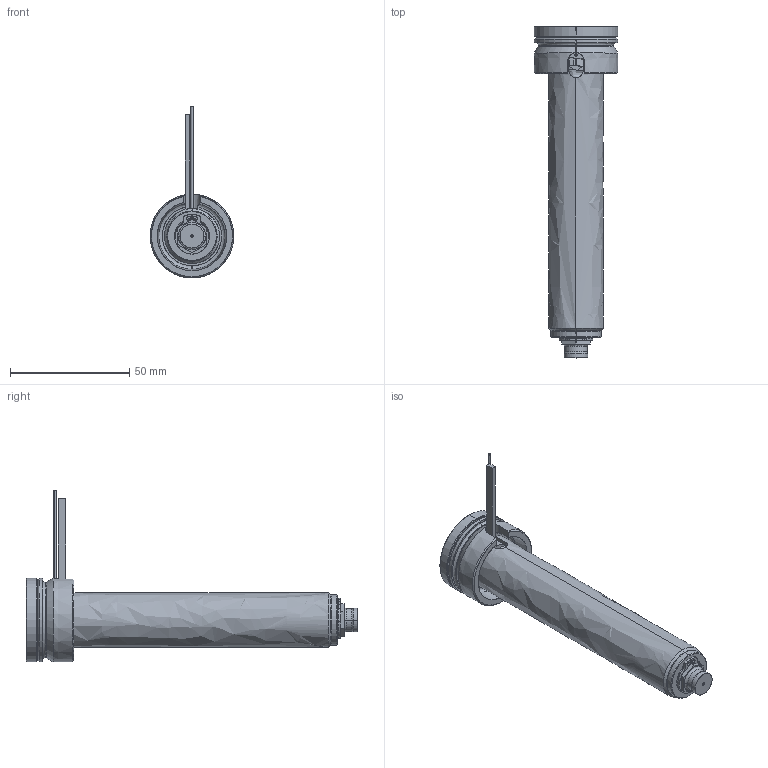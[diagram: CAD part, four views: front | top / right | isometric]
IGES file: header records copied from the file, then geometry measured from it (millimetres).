
Start section: SolidWorks IGES file using analytic representation for surfaces
Global section: file name: C:\Documents and Settings\ws-20\Desktop\TEM\UGEP3153-S-A-0 [Øf-0.30 P-0 ØC-7.0].IGS; native system: SolidWorks 2012; preprocessor: SolidWorks 2012; author: ws-20; date: 120404.082314; units: millimetre
Bounding box: 35 x 139 x 71.9 mm (x, y, z)
Surface area: 28186.5 mm2 (no closed solid volume)
Topology: 0 solids, 0 shells, 130 faces, 2020 edges, 2020 vertices
Faces by surface type: revolution 80, bspline 50
